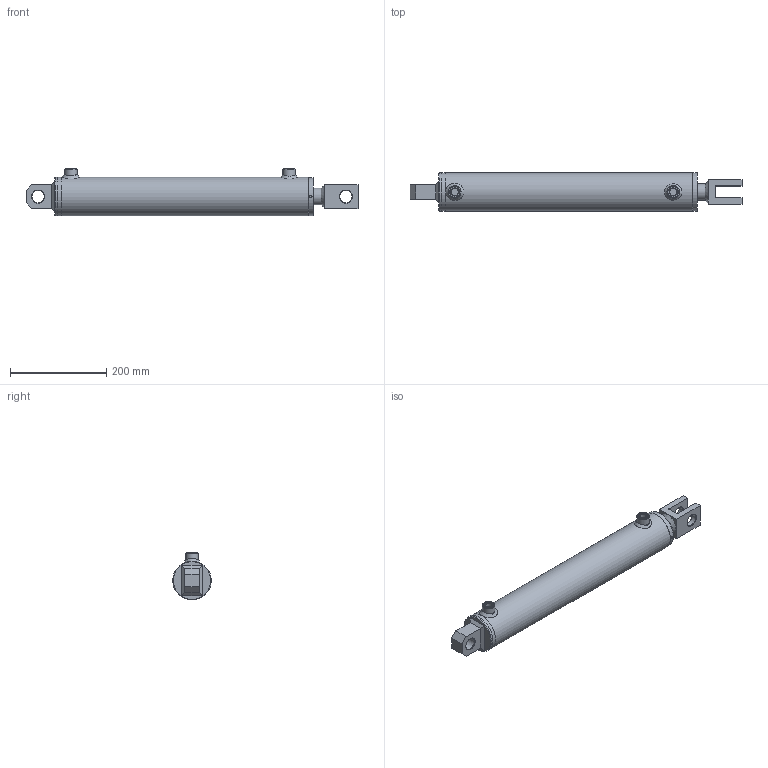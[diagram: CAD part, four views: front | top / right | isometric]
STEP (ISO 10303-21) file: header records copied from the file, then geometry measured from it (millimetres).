
FILE_DESCRIPTION( ( 'Unknown' ), '1' );
FILE_NAME( 'E:/LIBRERIA_3d/CILINDRI/HM5/HM54350400.stp', 'Unknown', ( 'Unknown' ), ( 'Unknown' ), 'PSStep 17.0.49', 'Unknown', ' ' );
FILE_SCHEMA( ( 'AUTOMOTIVE_DESIGN { 1 0 10303 214 1 1 1 1 }' ) );
Length unit declared in the file: millimetre
Products named in the file (28): STL4500400-oa7; Saldatura d'angolo 1-oa5; FTM4500400-oa6; CBSC220600; CG08007035; CT00070020; HM04350400; Saldatura con preparazione 1-oa3; Saldatura d'angolo 1-oa4; CF00070080; CBS0600000; APG0600000; CDA0002015; SBL3530400; Assem1; CFS0000025; COF2500000; Saldatura con preparazione 1-oa0; Saldatura d'angolo 1-oa1; Saldatura d'angolo 2-oa2
Assembly tree (20 placements, depth 4):
  Saldatura d'angolo 1-oa5
  Saldatura d'angolo 1-oa5
  Saldatura d'angolo 1-oa4
  Saldatura d'angolo 1-oa4
  Assem1
    CFS0000025
    COF2500000
    Saldatura con preparazione 1-oa0
    Saldatura con preparazione 1-oa0
    HM04350400
      Saldatura con preparazione 1-oa3
      Saldatura con preparazione 1-oa3
      CF00070080
      CBS0600000
      APG0600000  x2
      CDA0002015
      SBL3530400
      CG08007035
        CG08007035
      CT00070020
        CT00070020
      STL4500400-oa7
        FTM4500400-oa6
        CBSC220600
Bounding box: 690 x 80 x 99 mm (x, y, z)
Volume: 1618374.2 mm3; surface area: 447046.6 mm2
Topology: 24 solids, 24 shells, 259 faces, 546 edges, 342 vertices
Faces by surface type: plane 98, cylinder 66, cone 46, torus 37, bspline 12
Full cylindrical faces by diameter (mm): 4.25 x3, 5 x2, 6 x2, 7 x2, 14.95 x2, 16 x2, 16.6 x2, 19.4 x1, 20 x5, 22 x2, 24.5 x1, 25.25 x3, 26 x2, 30 x1, 35 x8, 37 x1, 38 x1, 43.6 x1, 45 x1, 50 x1, 64.18 x2, 65 x1, 68.34 x2, 69.9 x1, 70 x1, 70.3 x1, 70.5 x1, 70.6 x1, 71 x1, 72 x3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
Entity records: 11422 total; most frequent: CARTESIAN_POINT 4596, DIRECTION 1032, ORIENTED_EDGE 642, AXIS2_PLACEMENT_3D 462, EDGE_LOOP 452, FACE_OUTER_BOUND 356, EDGE_CURVE 321, VERTEX_POINT 282
